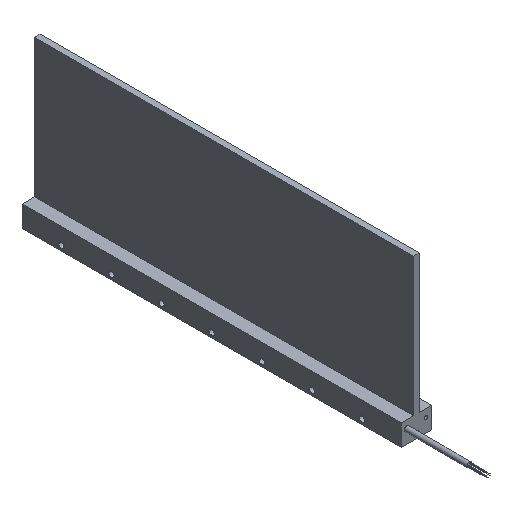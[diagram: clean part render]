
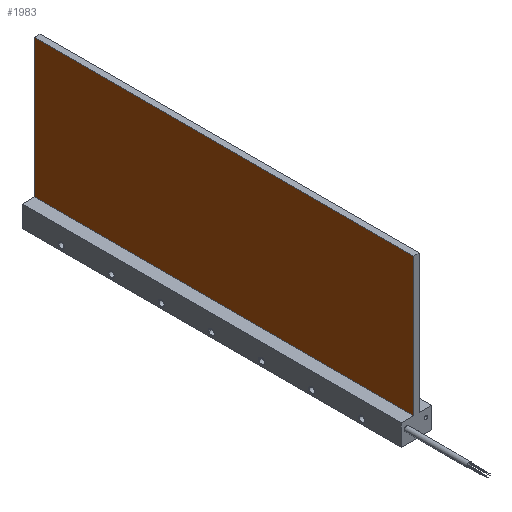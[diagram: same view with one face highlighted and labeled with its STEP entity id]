
A CAD part, isometric view. The second image highlights one B-rep face of the part: STEP entity #1983.
In plain terms, the highlighted planar face has unit normal (-1, 0, 0).
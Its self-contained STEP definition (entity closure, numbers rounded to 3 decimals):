
#21=DIRECTION('',(0.,0.,1.));
#22=VECTOR('',#21,110.3);
#23=CARTESIAN_POINT('',(-2.2,-151.41,0.));
#24=LINE('',#23,#22);
#71=DIRECTION('',(0.,1.,0.));
#72=VECTOR('',#71,302.82);
#73=CARTESIAN_POINT('',(-2.2,-151.41,110.3));
#74=LINE('',#73,#72);
#75=DIRECTION('',(0.,1.,0.));
#76=VECTOR('',#75,302.82);
#77=CARTESIAN_POINT('',(-2.2,-151.41,0.));
#78=LINE('',#77,#76);
#367=DIRECTION('',(0.,0.,1.));
#368=VECTOR('',#367,110.3);
#369=CARTESIAN_POINT('',(-2.2,151.41,0.));
#370=LINE('',#369,#368);
#1479=CARTESIAN_POINT('',(-2.2,-151.41,0.));
#1480=VERTEX_POINT('',#1479);
#1481=CARTESIAN_POINT('',(-2.2,-151.41,110.3));
#1482=VERTEX_POINT('',#1481);
#1495=CARTESIAN_POINT('',(-2.2,151.41,0.));
#1496=VERTEX_POINT('',#1495);
#1497=CARTESIAN_POINT('',(-2.2,151.41,110.3));
#1498=VERTEX_POINT('',#1497);
#1970=CARTESIAN_POINT('',(-2.2,-151.41,0.));
#1971=DIRECTION('',(-1.,0.,0.));
#1972=DIRECTION('',(0.,0.,1.));
#1973=AXIS2_PLACEMENT_3D('',#1970,#1971,#1972);
#1974=PLANE('',#1973);
#1975=ORIENTED_EDGE('',*,*,#1900,.F.);
#1977=ORIENTED_EDGE('',*,*,#1976,.T.);
#1979=ORIENTED_EDGE('',*,*,#1978,.T.);
#1980=ORIENTED_EDGE('',*,*,#1962,.F.);
#1981=EDGE_LOOP('',(#1975,#1977,#1979,#1980));
#1982=FACE_OUTER_BOUND('',#1981,.F.);
#1983=ADVANCED_FACE('',(#1982),#1974,.T.);
#1900=EDGE_CURVE('',#1480,#1482,#24,.T.);
#1962=EDGE_CURVE('',#1482,#1498,#74,.T.);
#1976=EDGE_CURVE('',#1480,#1496,#78,.T.);
#1978=EDGE_CURVE('',#1496,#1498,#370,.T.);
